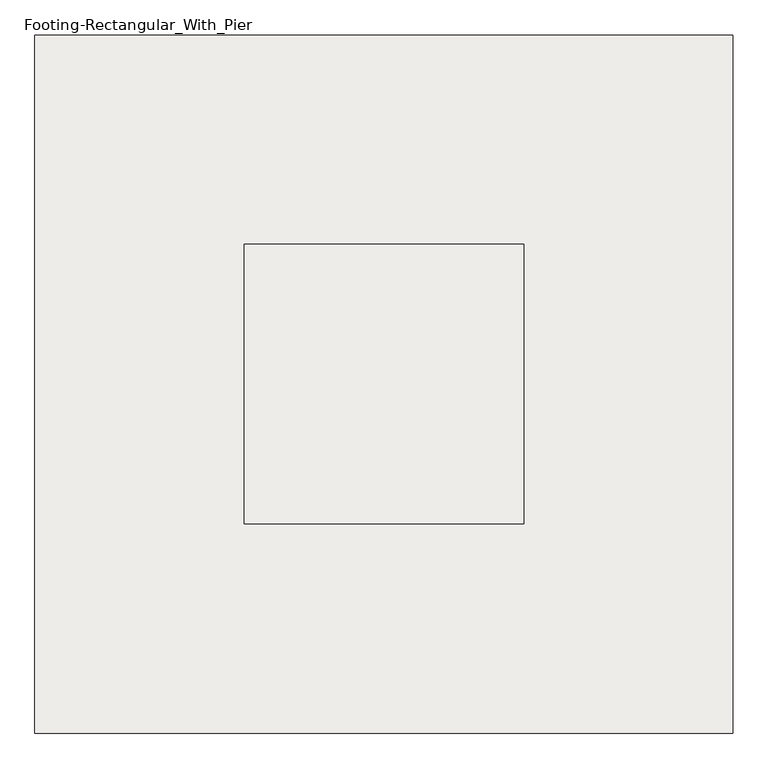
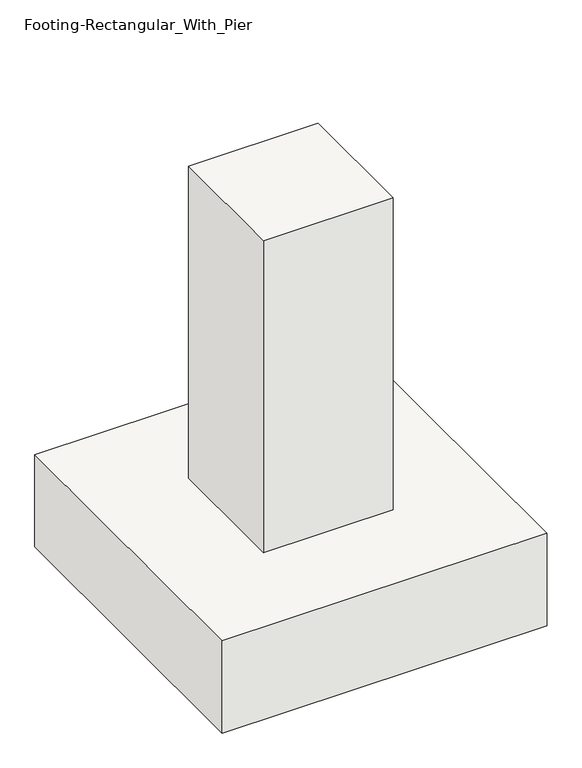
"""IFC4 building model written with IfcOpenShell, lengths in millimetres: slab geometry."""

from ifc_helpers import new_model, si_unit, frame, origin, origin_with_axes, place, context, project, spatial, polyline, outline, extrude, source, transform, mapped, element, save


def footing_rectangular_with_pier_b4053baf(model_context):
    return source(origin(), model_context, "Body", "SweptSolid", [
        extrude(outline(polyline([(762.0, 762.0), (762.0, -762.0), (-762.0, -762.0), (-762.0, 762.0), (762.0, 762.0)])), frame((0.0, 0.0, -457.2), z_axis=(0.0, 0.0, 1.0), x_axis=(1.0, 0.0, 0.0)), (0.0, 0.0, 1.0), 457.2),
        extrude(outline(polyline([(304.8, 304.8), (304.8, -304.8), (-304.8, -304.8), (-304.8, 304.8), (304.8, 304.8)])), origin_with_axes(), (0.0, 0.0, 1.0), 1549.4),
    ])


if __name__ == "__main__":
    model = new_model("IFC4")
    model_context = context("Model", 3, world=origin())
    ifc_project = project(units=[si_unit("LENGTHUNIT", "METRE", prefix="MILLI")], contexts=[model_context])
    site = spatial("IfcSite", under=ifc_project)
    building = spatial("IfcBuilding", under=site)
    placement = place(None, origin())
    footing_rectangular_with_pier_shape = footing_rectangular_with_pier_b4053baf(model_context)
    element("IfcSlab", 1, ObjectType="Footing-Rectangular_With_Pier : F1 - 5'-0\" x 5'-0\" x 1'-6\"", at=placement, inside=building, context=model_context, shape_type="MappedRepresentation", body=[
        mapped(footing_rectangular_with_pier_shape, transform((0.0, 0.0, 0.0), x_axis=(1.0, 0.0, 0.0), y_axis=(0.0, 1.0, 0.0), z_axis=(0.0, 0.0, 1.0))),
    ])
    save(model, "model.ifc")
